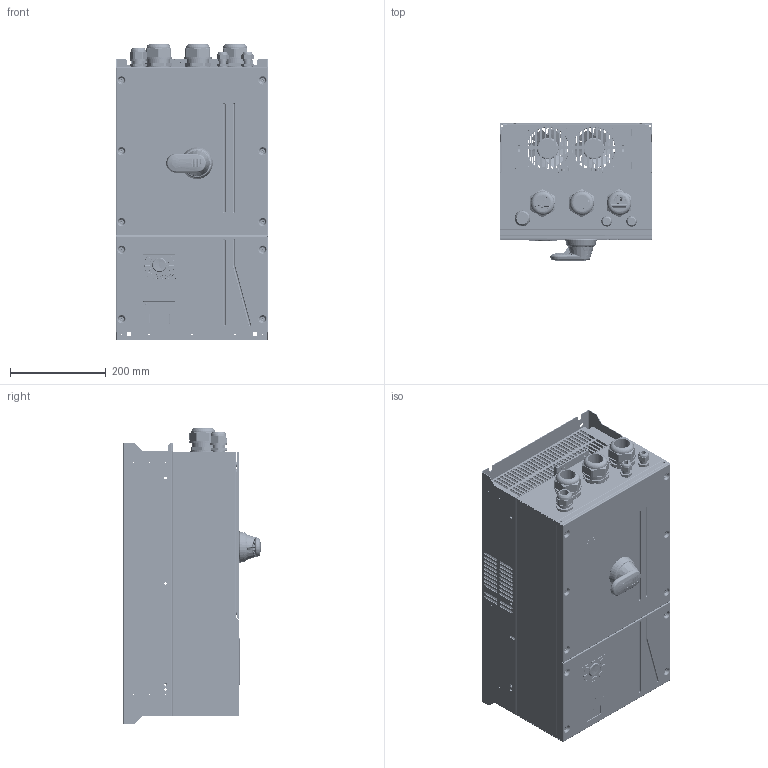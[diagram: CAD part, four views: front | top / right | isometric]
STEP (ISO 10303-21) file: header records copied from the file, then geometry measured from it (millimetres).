
FILE_DESCRIPTION((''),'2;1');
FILE_NAME('GD350-037G-45-AS_ASM','2021-08-20T14:54:27',('Administrator'),(''),'CREO PARAMETRIC BY PTC INC, 2019080','CREO PARAMETRIC BY PTC INC, 2019080','');
FILE_SCHEMA(('CONFIG_CONTROL_DESIGN'));
Products named in the file (132): 80310625; YMD-55-0D8-SL; ZS-M5-ZC; 80310625_ASM; 80482826; YMD-70-1D5-SL; 80482826_ASM; 80483149; S-M4-ZC; BSO-M4-18-ZC; 80483149_ASM; 80385741; 80385741_ASM; GB12617_4_4X10_SL; 61210550_ASM; 61210550SY; 61210550SY_ASM; 80340254; BSO-M4-16-ZC; TPR-4-12-SL; BSO-3D5M3-6-ZC; BS-M4-10; BS-M5-12; BSO-M4-14-SL; BSO-M4-12R5-SL; 80340254_ASM; 80385378; 61061737_ASM; 80410545; FH-M3-10-ZC; 80410545_ASM; 80440867; 61761462_ASM; 61761462SY; 61761462SY_ASM; 80410544; 80410544_ASM; 80387242; 61761463_ASM; 61761463SY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
Assembly tree (292 placements, depth 8):
  GD350-037G-45-AS_ASM
    41060166_ASM
      61210550SY_ASM
        61210550_ASM
          80310625_ASM
            80310625
            YMD-55-0D8-SL  x2
            ZS-M5-ZC  x6
          80482826_ASM
            80482826
            YMD-70-1D5-SL  x2
          80483149_ASM
            80483149
            S-M4-ZC  x8
            BSO-M4-18-ZC
          80385741_ASM
            80385741
            ZS-M5-ZC  x2
          GB12617_4_4X10_SL  x14
        61210550SY
      61061737_ASM
        80340254_ASM
          80340254
          YMD-55-0D8-SL  x4
          BSO-M4-16-ZC  x6
          TPR-4-12-SL  x2
          BSO-3D5M3-6-ZC  x11
          BS-M4-10  x10
          BS-M5-12  x6
          BSO-M4-14-SL  x4
          BSO-M4-12R5-SL  x8
        80385378  x2
      61761462SY_ASM
        61761462_ASM
          80410545_ASM
            80410545
            FH-M3-10-ZC  x6
            YMD-55-0D8-SL  x4
          80440867  x4
        61761462SY
      61761463SY_ASM
        61761463_ASM
          80410544_ASM
            80410544
            YMD-55-0D8-SL  x2
          80387242  x2
        61761463SY
      86870107
    41060124_ASM
      80385743_ASM
    40840391_ASM
    40850971_ASM
      77557588  x2
      77557587
      77557584
      77557585
      77557614_ASM
        77557614
        NZ-M5-ZC
      77557615
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Bounding box: 318 x 287.9 x 619 mm (x, y, z)
Volume: 2852755.1 mm3; surface area: 3253439.2 mm2
Topology: 270 solids, 327 shells, 26816 faces, 72997 edges, 47698 vertices
Faces by surface type: plane 19381, cylinder 4774, cone 1433, torus 620, bspline 429, extrusion 86, sphere 49, revolution 44
Entity records: 424783 total; most frequent: CARTESIAN_POINT 101286, ORIENTED_EDGE 66392, DIRECTION 64933, EDGE_CURVE 34365, VECTOR 25591, LINE 25519, VERTEX_POINT 22570, AXIS2_PLACEMENT_3D 19657
